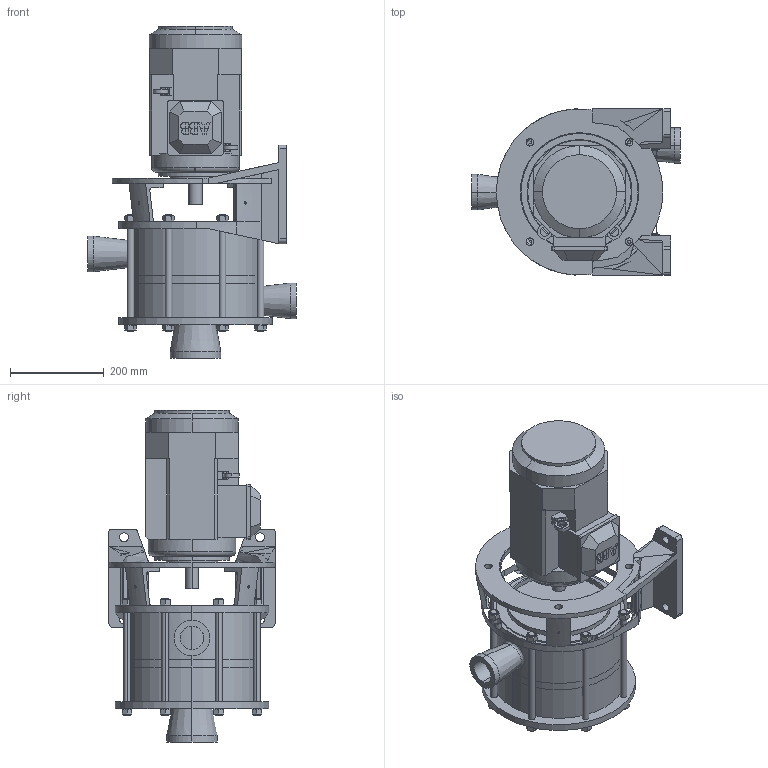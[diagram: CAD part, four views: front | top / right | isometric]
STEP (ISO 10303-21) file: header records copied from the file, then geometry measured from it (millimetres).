
FILE_DESCRIPTION((''),'2;1');
FILE_NAME('MJ50--100 frame.stp','2010-08-04T14:25:36',(''),(''),'AutoCAD STEP 2000i','AutoCAD 2000i',', , ');
FILE_SCHEMA(('CONFIG_CONTROL_DESIGN'));
Length unit declared in the file: millimetre
Products named in the file (2): MJ50--100 FRAME A; A2.4976 100 flange
Assembly tree (1 placements, depth 2):
  MJ50--100 FRAME A
    A2.4976 100 flange
Bounding box: 445 x 355 x 708.5 mm (x, y, z)
Volume: 25950956.4 mm3; surface area: 1660035.4 mm2
Topology: 14 solids, 110 shells, 1421 faces, 3780 edges, 2428 vertices
Faces by surface type: cylinder 493, torus 388, plane 373, cone 106, bspline 61
Entity records: 49033 total; most frequent: CARTESIAN_POINT 12661, DIRECTION 8192, ORIENTED_EDGE 7524, EDGE_CURVE 3762, AXIS2_PLACEMENT_3D 3509, VERTEX_POINT 2428, CIRCLE 2108, EDGE_LOOP 1556
